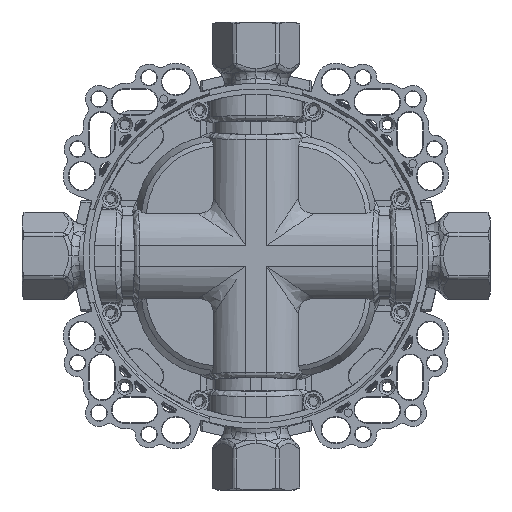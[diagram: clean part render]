
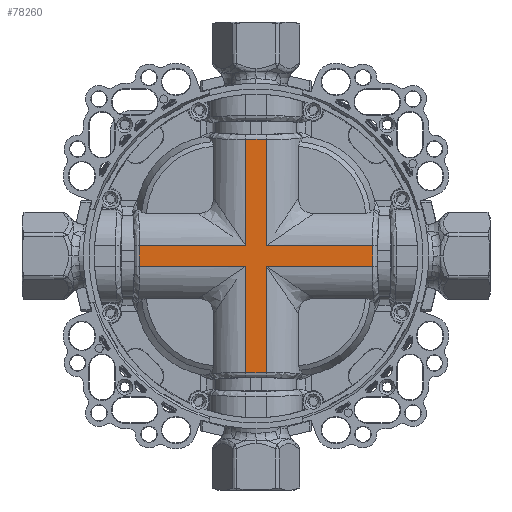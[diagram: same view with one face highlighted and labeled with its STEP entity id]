
A CAD part, left-side view. The second image highlights one B-rep face of the part: STEP entity #78260.
In plain terms, the highlighted planar face has unit normal (-1, 0, 0).
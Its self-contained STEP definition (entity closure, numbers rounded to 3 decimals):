
#62432=DIRECTION('',(0.,0.,-1.));
#62433=VECTOR('',#62432,37.258);
#62434=CARTESIAN_POINT('',(-28.5,-3.6,-3.6));
#62435=LINE('',#62434,#62433);
#62495=DIRECTION('',(0.,1.,0.));
#62496=VECTOR('',#62495,7.2);
#62497=CARTESIAN_POINT('',(-28.5,-3.6,
-40.858));
#62498=LINE('',#62497,#62496);
#62675=DIRECTION('',(0.,1.,0.));
#62676=VECTOR('',#62675,37.258);
#62677=CARTESIAN_POINT('',(-28.5,3.6,-3.6));
#62678=LINE('',#62677,#62676);
#62726=CARTESIAN_POINT('',(-28.5,40.858,
-3.6));
#62745=CARTESIAN_POINT('',(-28.5,3.6,-3.6));
#62767=DIRECTION('',(0.,0.,1.));
#62768=VECTOR('',#62767,37.258);
#62769=CARTESIAN_POINT('',(-28.5,3.6,
-40.858));
#62770=LINE('',#62769,#62768);
#64289=DIRECTION('',(0.,0.,1.));
#64290=VECTOR('',#64289,37.258);
#64291=CARTESIAN_POINT('',(-28.5,3.6,3.6));
#64292=LINE('',#64291,#64290);
#64359=CARTESIAN_POINT('',(-28.5,3.6,3.6));
#64381=DIRECTION('',(0.,-1.,0.));
#64382=VECTOR('',#64381,37.258);
#64383=CARTESIAN_POINT('',(-28.5,40.858,
3.6));
#64384=LINE('',#64383,#64382);
#64430=DIRECTION('',(0.,0.,1.));
#64431=VECTOR('',#64430,7.2);
#64432=CARTESIAN_POINT('',(-28.5,40.858,
-3.6));
#64433=LINE('',#64432,#64431);
#65003=DIRECTION('',(0.,-1.,0.));
#65004=VECTOR('',#65003,37.258);
#65005=CARTESIAN_POINT('',(-28.5,-3.6,3.6));
#65006=LINE('',#65005,#65004);
#65073=CARTESIAN_POINT('',(-28.5,-3.6,3.6));
#65095=DIRECTION('',(0.,0.,-1.));
#65096=VECTOR('',#65095,37.258);
#65097=CARTESIAN_POINT('',(-28.5,-3.6,
40.858));
#65098=LINE('',#65097,#65096);
#65148=DIRECTION('',(0.,-1.,0.));
#65149=VECTOR('',#65148,7.2);
#65150=CARTESIAN_POINT('',(-28.5,3.6,
40.858));
#65151=LINE('',#65150,#65149);
#66020=DIRECTION('',(0.,1.,0.));
#66021=VECTOR('',#66020,37.258);
#66022=CARTESIAN_POINT('',(-28.5,-40.858,
-3.6));
#66023=LINE('',#66022,#66021);
#66050=CARTESIAN_POINT('',(-28.5,-3.6,-3.6));
#66102=DIRECTION('',(0.,0.,-1.));
#66103=VECTOR('',#66102,7.2);
#66104=CARTESIAN_POINT('',(-28.5,-40.858,
3.6));
#66105=LINE('',#66104,#66103);
#68848=VERTEX_POINT('',#64359);
#69255=VERTEX_POINT('',#65073);
#69659=VERTEX_POINT('',#66050);
#69997=VERTEX_POINT('',#62745);
#70079=CARTESIAN_POINT('',(-28.5,-3.6,40.858));
#70081=VERTEX_POINT('',#70079);
#70172=CARTESIAN_POINT('',(-28.5,-40.858,-3.6));
#70174=VERTEX_POINT('',#70172);
#70265=CARTESIAN_POINT('',(-28.5,3.6,-40.858));
#70267=VERTEX_POINT('',#70265);
#70354=VERTEX_POINT('',#62726);
#70389=CARTESIAN_POINT('',(-28.5,-3.6,-40.858));
#70390=VERTEX_POINT('',#70389);
#70413=CARTESIAN_POINT('',(-28.5,-40.858,
3.6));
#70414=VERTEX_POINT('',#70413);
#70415=CARTESIAN_POINT('',(-28.5,3.6,
40.858));
#70416=VERTEX_POINT('',#70415);
#70417=CARTESIAN_POINT('',(-28.5,40.858,
3.6));
#70418=VERTEX_POINT('',#70417);
#78230=CARTESIAN_POINT('',(-28.5,0.,-3.071));
#78231=DIRECTION('',(-1.,0.,0.));
#78232=DIRECTION('',(0.,0.,1.));
#78233=AXIS2_PLACEMENT_3D('',#78230,#78231,#78232);
#78234=PLANE('',#78233);
#78236=ORIENTED_EDGE('',*,*,#78235,.T.);
#78238=ORIENTED_EDGE('',*,*,#78237,.T.);
#78240=ORIENTED_EDGE('',*,*,#78239,.T.);
#78242=ORIENTED_EDGE('',*,*,#78241,.T.);
#78244=ORIENTED_EDGE('',*,*,#78243,.T.);
#78246=ORIENTED_EDGE('',*,*,#78245,.T.);
#78248=ORIENTED_EDGE('',*,*,#78247,.T.);
#78250=ORIENTED_EDGE('',*,*,#78249,.T.);
#78252=ORIENTED_EDGE('',*,*,#78251,.T.);
#78254=ORIENTED_EDGE('',*,*,#78253,.T.);
#78256=ORIENTED_EDGE('',*,*,#78255,.T.);
#78257=ORIENTED_EDGE('',*,*,#78214,.T.);
#78258=EDGE_LOOP('',(#78236,#78238,#78240,#78242,#78244,#78246,#78248,#78250,
#78252,#78254,#78256,#78257));
#78259=FACE_OUTER_BOUND('',#78258,.F.);
#78260=ADVANCED_FACE('',(#78259),#78234,.T.);
#78214=EDGE_CURVE('',#69659,#70390,#62435,.T.);
#78235=EDGE_CURVE('',#70390,#70267,#62498,.T.);
#78237=EDGE_CURVE('',#70267,#69997,#62770,.T.);
#78239=EDGE_CURVE('',#69997,#70354,#62678,.T.);
#78241=EDGE_CURVE('',#70354,#70418,#64433,.T.);
#78243=EDGE_CURVE('',#70418,#68848,#64384,.T.);
#78245=EDGE_CURVE('',#68848,#70416,#64292,.T.);
#78247=EDGE_CURVE('',#70416,#70081,#65151,.T.);
#78249=EDGE_CURVE('',#70081,#69255,#65098,.T.);
#78251=EDGE_CURVE('',#69255,#70414,#65006,.T.);
#78253=EDGE_CURVE('',#70414,#70174,#66105,.T.);
#78255=EDGE_CURVE('',#70174,#69659,#66023,.T.);
